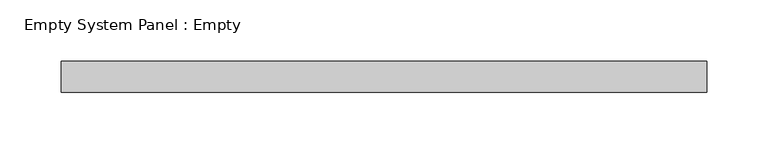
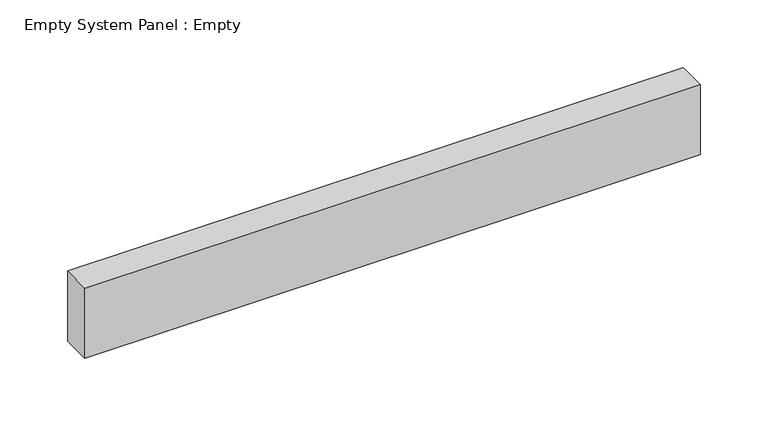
"""IFC4 building model written with IfcOpenShell, lengths in millimetres: plate geometry, Empty System Panel : Empty."""

from ifc_helpers import new_model, si_unit, origin, origin_with_axes, place, context, project, spatial, polyline, outline, extrude, source, transform, mapped, element, save


def empty_system_panel_empty_e3452742(model_context):
    return source(origin(), model_context, "Body", "SweptSolid", [
        extrude(outline(polyline([(263.0393643, 19.05), (-263.0393643, 19.05), (-263.0393643, 44.45), (263.0393643, 44.45), (263.0393643, 19.05)])), origin_with_axes(), (0.0, 0.0, 1.0), 63.5),
    ])


if __name__ == "__main__":
    model = new_model("IFC4")
    model_context = context("Model", 3, world=origin())
    ifc_project = project(units=[si_unit("LENGTHUNIT", "METRE", prefix="MILLI")], contexts=[model_context])
    site = spatial("IfcSite", under=ifc_project)
    building = spatial("IfcBuilding", under=site)
    placement = place(None, origin())
    empty_system_panel_empty_shape = empty_system_panel_empty_e3452742(model_context)
    element("IfcPlate", 1, ObjectType="Empty System Panel : Empty", at=placement, inside=building, context=model_context, shape_type="MappedRepresentation", body=[
        mapped(empty_system_panel_empty_shape, transform((0.0, 0.0, 0.0), x_axis=(1.0, 0.0, 0.0), y_axis=(0.0, 1.0, 0.0), z_axis=(0.0, 0.0, 1.0))),
    ])
    save(model, "model.ifc")
